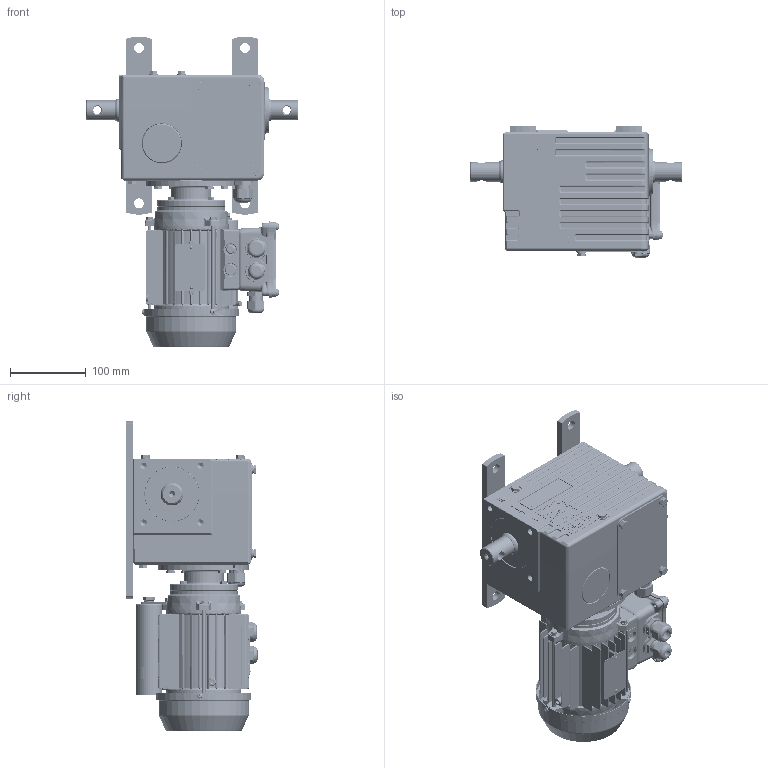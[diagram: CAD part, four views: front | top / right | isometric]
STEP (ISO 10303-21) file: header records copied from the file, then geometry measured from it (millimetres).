
FILE_DESCRIPTION (( 'STEP AP214' ), '1' );
FILE_NAME ('010203004_EWA_12_3D__DE.STEP', '2021-01-27T10:31:41', ( '' ), ( '' ), 'SwSTEP 2.0', 'SolidWorks 2020', '' );
FILE_SCHEMA (( 'AUTOMOTIVE_DESIGN' ));
Length unit declared in the file: millimetre
Products named in the file (27): Kennzeichnung_10001854; Dichtelement_10005476; Schraube_10002078; 010200560_EWA_12_3D__DE; Elektroteil_10001640; Dichtelement_10032469; Scheibe_10002061; Dichtelement_10001203; 010202055_EWA_3D__DE; Elektroteil_10028709; Elektroteil_10001639; 010191515_Normteil_Kaufteil_3D-Modell_DE_10191515; 010203004_EWA_12_3D__DE; 010181756_Normteil_Kaufteil_3D-Teil_DE_10181756_DIN 913 - M3 x 8-N; Schraube_10014320; 010200597_Normteil_Kaufteil_3D__DE_DIN EN 24017 - M5 x 16-N; 010192906_EWA_12_3D-Modell_DE_10192906_END 20-90000.0002.6584 m.SB-WH60; 010200561_EWA_12_3D__DE; Schraube_10018291; 010202442_EWA_12_3D__DE_Ohne Inhalt; 010200559_EWA_12_3D__DE; Deckel_10000048; 010201152_Normteil_Kaufteil_3D__DE_DIN 7991 - M10 x 18 --- 10N; Wälzlager_10001868; 010197604_EWA_3D-Modell_DE_10197604; 010201148_EWA_14_3D__DE; 010194287_EWA_12_3D-Modell_DE_10194287
Assembly tree (49 placements, depth 3):
  010203004_EWA_12_3D__DE
    010202442_EWA_12_3D__DE_Ohne Inhalt
      010192906_EWA_12_3D-Modell_DE_10192906_END 20-90000.0002.6584 m.SB-WH60
      010201148_EWA_14_3D__DE  x2
      010201152_Normteil_Kaufteil_3D__DE_DIN 7991 - M10 x 18 --- 10N  x4
      Dichtelement_10005476
      Dichtelement_10032469
      Elektroteil_10001639
      Elektroteil_10001640
      Dichtelement_10001203
      Elektroteil_10028709
      Deckel_10000048
      Scheibe_10002061  x8
      010191515_Normteil_Kaufteil_3D-Modell_DE_10191515  x4
      Wälzlager_10001868
      Schraube_10018291  x4
      010194287_EWA_12_3D-Modell_DE_10194287
    Schraube_10014320
    010200559_EWA_12_3D__DE
      010200560_EWA_12_3D__DE
      010200561_EWA_12_3D__DE
      010197604_EWA_3D-Modell_DE_10197604
      010181756_Normteil_Kaufteil_3D-Teil_DE_10181756_DIN 913 - M3 x 8-N
      010200597_Normteil_Kaufteil_3D__DE_DIN EN 24017 - M5 x 16-N  x4
    Schraube_10002078  x4
    Kennzeichnung_10001854
    010202055_EWA_3D__DE
Bounding box: 280 x 173 x 410 mm (x, y, z)
Volume: 2214155.3 mm3; surface area: 924586 mm2
Topology: 100 solids, 102 shells, 9522 faces, 24063 edges, 14933 vertices
Faces by surface type: plane 3545, bspline 2119, cylinder 2096, cone 872, torus 704, sphere 186
Entity records: 558610 total; most frequent: CARTESIAN_POINT 283155, ORIENTED_EDGE 45536, DIRECTION 35584, EDGE_CURVE 22768, VERTEX_POINT 14298, AXIS2_PLACEMENT_3D 12317, VECTOR 10950, LINE 10950
